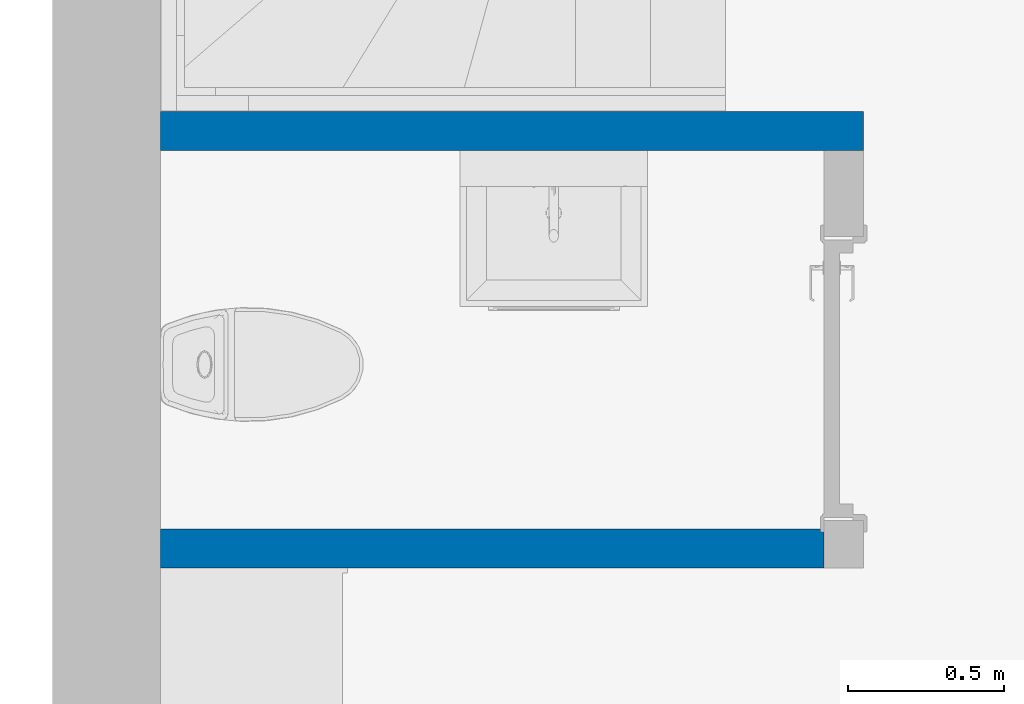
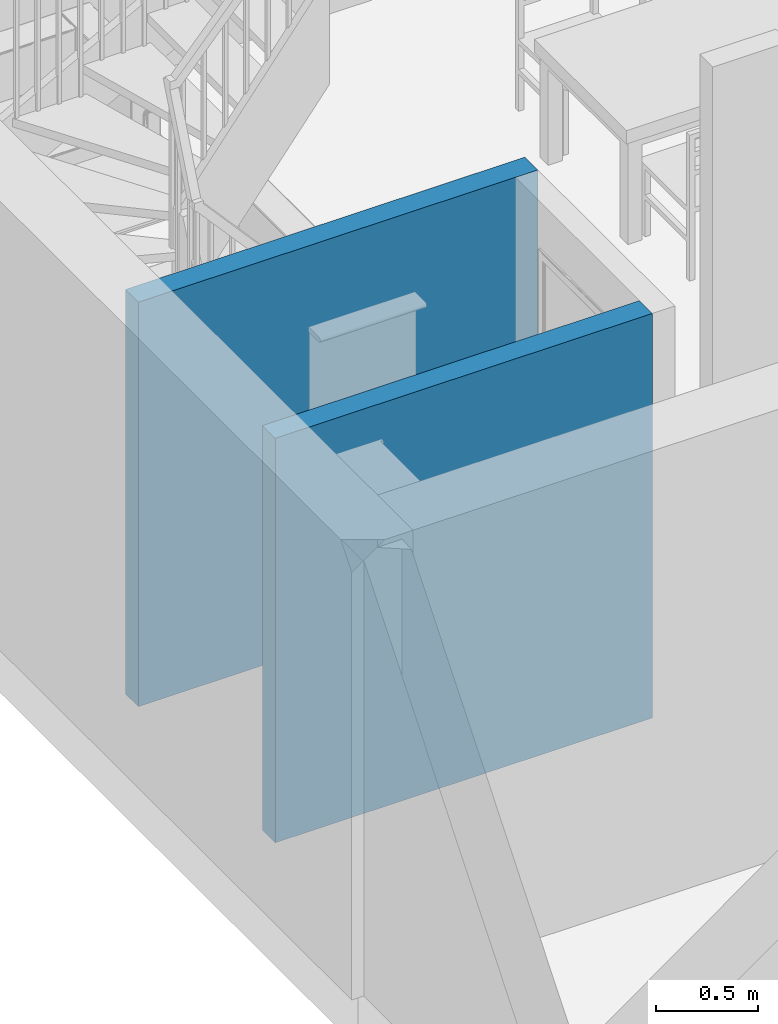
# One storey, part 6 of 65: 2 walls.
"""IFC2X3 building model written with IfcOpenShell, lengths in millimetres."""

from ifc_helpers import new_model, entity, si_unit, converted_unit, direction, frame, frame_2d, origin, place, context, subcontext, project, spatial, rectangle, extrude, material, layer, layer_set, layer_usage, type_object, element, save


model = new_model("IFC2X3")

# Units and contexts
model_context = context("Model", 3, precision=0.01, world=origin(), true_north=direction((0.0, 1.0)))
body_context = subcontext(model_context, "Body", "Model", "MODEL_VIEW")
ifc_project = project(units=[si_unit("LENGTHUNIT", "METRE", prefix="MILLI"), si_unit("AREAUNIT", "SQUARE_METRE"), si_unit("VOLUMEUNIT", "CUBIC_METRE"), converted_unit("PLANEANGLEUNIT", "DEGREE", entity("IfcPlaneAngleMeasure", 0.017453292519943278), si_unit("PLANEANGLEUNIT", "RADIAN"), dimensions=[0, 0, 0, 0, 0, 0, 0])], contexts=[model_context])

# Site, building, storey
site_placement = place(None, origin())
site = spatial("IfcSite", under=ifc_project, at=site_placement, Name="Default", CompositionType="ELEMENT")
building_placement = place(site_placement, origin())
building = spatial("IfcBuilding", under=site, at=building_placement, CompositionType="ELEMENT")
storey_placement = place(building_placement, origin())
storey = spatial("IfcBuildingStorey", under=building, at=storey_placement, Name="Et. 1", CompositionType="ELEMENT", Elevation=0.0)

# Walls
ifc_material_1 = material(Name="Vegg - Gips - Innvendig - Hvit")
ifc_layer_1 = layer(ifc_material_1, 13.000000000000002)
ifc_material_2 = material(Name="Vegg - Stender - Stål - Isolert")
ifc_layer_2 = layer(ifc_material_2, 100.0)
ifc_layer_3 = layer(ifc_material_1, 13.000000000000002)
ifc_layer_set = layer_set([ifc_layer_1, ifc_layer_2, ifc_layer_3], Name="Basic Wall:24-GSIG-13_100_13")
ifc_layer_usage_1 = layer_usage(ifc_layer_set, "AXIS2", "NEGATIVE", 63.00000000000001)
wall_type = type_object("IfcWallType", Name="Basic Wall:24-GSIG-13_100_13", PredefinedType="STANDARD", material=ifc_layer_set)
wall_1_placement = place(storey_placement, frame((10437.009586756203, 14156.058719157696, 0.0)))
element("IfcWallStandardCase", 1, at=wall_1_placement, inside=storey, type_object=wall_type, material=ifc_layer_usage_1, Name="Basic Wall:24-GSIG-13_100_13", context=body_context, shape_type="SweptSolid", body=[
    extrude(rectangle(XDim=2254.0000000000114, YDim=126.00000000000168, at=frame_2d((1127.0000000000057, -8.171241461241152e-14), x_axis=(-1.0, 0.0))), origin(), (0.0, 0.0, 1.0), 2413.0000000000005),
])
ifc_layer_usage_2 = layer_usage(ifc_layer_set, "AXIS2", "NEGATIVE", 63.00000000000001)
wall_2_placement = place(storey_placement, frame((12565.009586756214, 12817.180957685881, 0.0), z_axis=(0.0, 0.0, 1.0), x_axis=(-1.0, 0.0, 0.0)))
element("IfcWallStandardCase", 2, at=wall_2_placement, inside=storey, type_object=wall_type, material=ifc_layer_usage_2, Name="Basic Wall:24-GSIG-13_100_13", context=body_context, shape_type="SweptSolid", body=[
    extrude(rectangle(XDim=2128.000000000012, YDim=126.00000000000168, at=frame_2d((1064.000000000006, -1.1013412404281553e-13), x_axis=(-1.0, 0.0))), origin(), (0.0, 0.0, 1.0), 2413.0),
])

save(model, "model.ifc")
